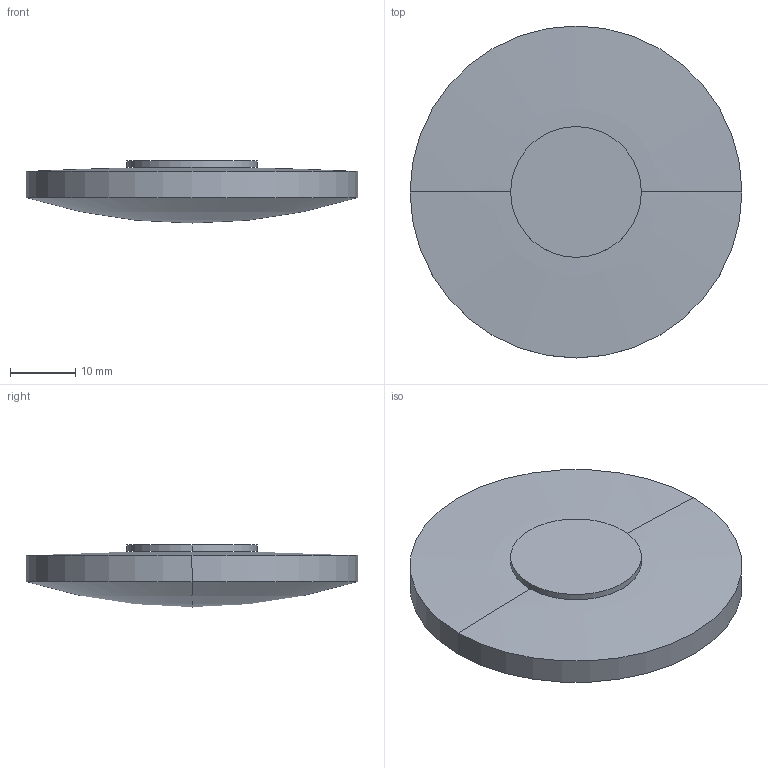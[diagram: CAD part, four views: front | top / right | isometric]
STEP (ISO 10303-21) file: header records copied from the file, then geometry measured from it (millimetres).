
FILE_DESCRIPTION(('STEP AP214'),'1');
FILE_NAME('LLU-51150.STEP','2020-03-09T17:42:14',(' '),(' '),'Spatial InterOp 3D',' ',' ');
FILE_SCHEMA(('AUTOMOTIVE_DESIGN { 1 0 10303 214 1 1 1 1 }'));
Length unit declared in the file: millimetre
Products named in the file (1): 1
Bounding box: 50.8 x 50.8 x 9.5 mm (x, y, z)
Volume: 13009.9 mm3; surface area: 5431.5 mm2
Topology: 2 solids, 2 shells, 10 faces, 20 edges, 10 vertices
Faces by surface type: sphere 4, cylinder 4, plane 2
Entity records: 255 total; most frequent: DIRECTION 52, CARTESIAN_POINT 38, ORIENTED_EDGE 32, AXIS2_PLACEMENT_3D 24, EDGE_CURVE 16, CIRCLE 12, ADVANCED_FACE 10, FACE_OUTER_BOUND 10
